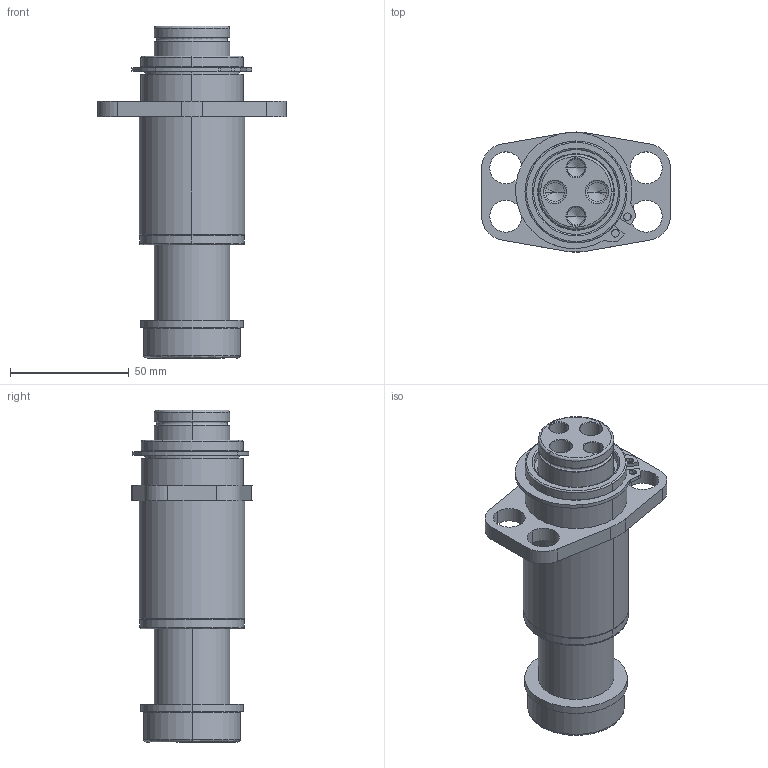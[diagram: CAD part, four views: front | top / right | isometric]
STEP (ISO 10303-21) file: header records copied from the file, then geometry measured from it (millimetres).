
FILE_DESCRIPTION (( 'STEP AP214' ), '1' );
FILE_NAME ('GK120-L3-E-XXX.STEP', '2020-09-21T17:32:36', ( '' ), ( '' ), 'SwSTEP 2.0', 'SolidWorks 2017', '' );
FILE_SCHEMA (( 'AUTOMOTIVE_DESIGN' ));
Length unit declared in the file: inch
Products named in the file (7): GK1.25-L3-E-Base; GK120-L3-E-XXX; GK120-DampeningWasher; GK120-E-XXX-GuidePin; RetainingRing-GK1.25-L-E; Base-GK115-L_GK1.25-L3-E-Base
Assembly tree (6 placements, depth 3):
  GK120-L3-E-XXX
    GK1.25-L3-E-Base
      Base-GK115-L_GK1.25-L3-E-Base
      RetainingRing-GK1.25-L-E
    GK120-E-XXX-GuidePin
      GK120-E-XXX-GuidePin
      GK120-DampeningWasher
Bounding box: 79.41 x 50.5 x 139.7 mm (x, y, z)
Volume: 178968 mm3; surface area: 47974.9 mm2
Topology: 4 solids, 4 shells, 147 faces, 341 edges, 204 vertices
Faces by surface type: cylinder 69, cone 32, plane 26, bspline 20
Entity records: 5033 total; most frequent: CARTESIAN_POINT 1235, DIRECTION 781, ORIENTED_EDGE 666, EDGE_CURVE 333, AXIS2_PLACEMENT_3D 322, VERTEX_POINT 204, CIRCLE 184, EDGE_LOOP 173
